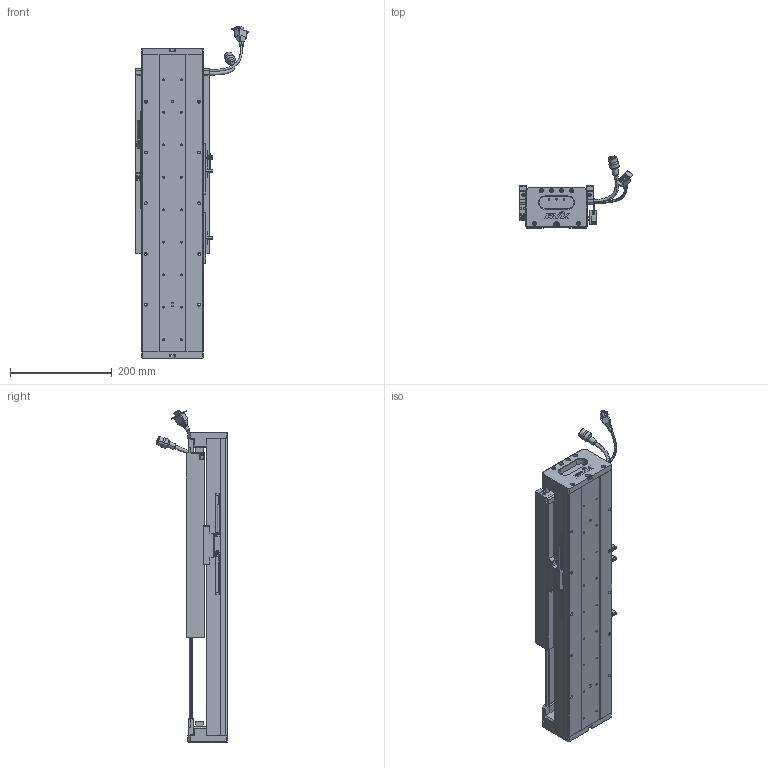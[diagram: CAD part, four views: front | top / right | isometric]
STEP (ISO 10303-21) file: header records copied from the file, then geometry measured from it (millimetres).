
FILE_DESCRIPTION (( 'STEP AP203' ), '1' );
FILE_NAME ('Z5-RY120D-1-L500-B-K.SLDASM_0150.step', '2021-05-17T06:20:52', ( '盈信电脑' ), ( '东莞市道滘镇水果街19号' ), 'SwSTEP 2.0', 'SolidWorks 2016', '' );
FILE_SCHEMA (( 'CONFIG_CONTROL_DESIGN' ));
Length unit declared in the file: millimetre
Products named in the file (37): SEAL-Part-1; Z5-RY120铝滑块（21款）; 080黍杅芛假蚾釱21遴; RY100FB-遵嫖萇覜茼え; COVER; SCREW-M1.6; SCALE-Part-1; Z-RY120D詩湍狟揤裔; SHIELDPLATE; Z-120詩湍傷裔啣; Z-RY120D詩湍奻揤裔; SCREW-M1.7-1; LABEL; HARNESS; SCREW-M1.6-2; HOLDER0; SCREW-M1.6-3; 榋妏寠巭燃_暯_M2_2; HARNESS-Part-2; SCREW-M1.6-1; 120-Z-臏賑輸盄裔(21遴); Z5-RY120D-1-L500-B-K.SLDASM_0150; SCREW-M1.7; SEAL; 140蚥薯蝶輸; HARNESS-Part-1; SCALE; COVER-Part-1; 672嫖萇羲壽假蚾釱; Z5-RY120-L500詩湍100mm遵_0150; Z5-RY120-500-倰第菁釱_0150; PSLH080_PSLF2; SCALE-Part-2; 140雄赽晤鎢ん堤盄; LABEL-Part-1; 覜茼ん672; PBU_SHEET
Assembly tree (43 placements, depth 4):
  Z5-RY120D-1-L500-B-K.SLDASM_0150
    Z5-RY120-500-倰第菁釱_0150
    覜茼ん672  x3
    672嫖萇羲壽假蚾釱  x2
    Z5-RY120铝滑块（21款）
    PSLH080_PSLF2
      SCALE
        SCALE-Part-1
        SCALE-Part-2
      HARNESS
        HARNESS-Part-1
        HARNESS-Part-2
      LABEL
        LABEL-Part-1
      COVER
        COVER-Part-1
      SEAL
        SEAL-Part-1
      榋妏寠巭燃_暯_M2_2
      SHIELDPLATE
      SCREW-M1.7
      SCREW-M1.7-1
      PBU_SHEET
      SCREW-M1.6
      SCREW-M1.6-1
      SCREW-M1.6-2
      SCREW-M1.6-3
      HOLDER0
    080黍杅芛假蚾釱21遴
    120-Z-臏賑輸盄裔(21遴)
    140雄赽晤鎢ん堤盄
    140蚥薯蝶輸  x2
    RY100FB-遵嫖萇覜茼え
    Z-120詩湍傷裔啣  x2
    Z-RY120D詩湍奻揤裔  x2
    Z-RY120D詩湍狟揤裔  x2
    Z5-RY120-L500詩湍100mm遵_0150
Bounding box: 222.88 x 140.94 x 654 mm (x, y, z)
Volume: 2554824.4 mm3; surface area: 762748.3 mm2
Topology: 38 solids, 38 shells, 2597 faces, 6835 edges, 4320 vertices
Faces by surface type: cylinder 1135, plane 1090, cone 250, torus 69, bspline 53
Entity records: 74056 total; most frequent: CARTESIAN_POINT 18021, DIRECTION 10973, ORIENTED_EDGE 10694, EDGE_CURVE 5347, AXIS2_PLACEMENT_3D 4022, VERTEX_POINT 3440, LINE 2929, VECTOR 2929
